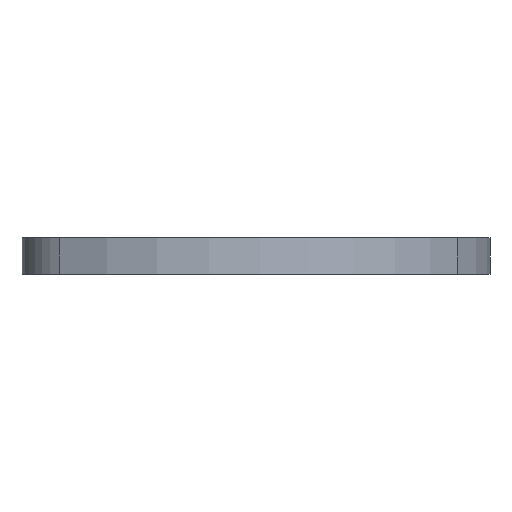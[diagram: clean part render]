
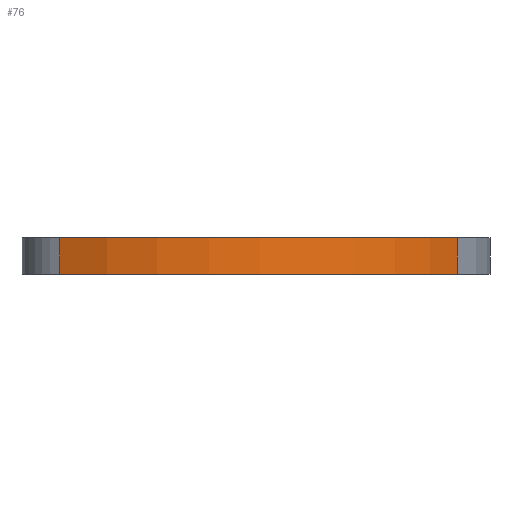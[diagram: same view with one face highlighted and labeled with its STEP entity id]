
A CAD part, left-side view. The second image highlights one B-rep face of the part: STEP entity #76.
In plain terms, the highlighted cylindrical face has radius 73 mm (diameter 146 mm), a partial arc.
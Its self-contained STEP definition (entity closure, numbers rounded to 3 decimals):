
#76 = ADVANCED_FACE ( 'NONE', ( #474 ), #668, .T. ) ;
#86 = CARTESIAN_POINT ( 'NONE',  ( -33.504, -64.857, 4.5 ) ) ;
#112 = DIRECTION ( 'NONE',  ( 0.459, 0.888, 0. ) ) ;
#225 = CARTESIAN_POINT ( 'NONE',  ( 0., 0., 4.5 ) ) ;
#294 = EDGE_LOOP ( 'NONE', ( #335, #729, #534, #577 ) ) ;
#335 = ORIENTED_EDGE ( 'NONE', *, *, #978, .F. ) ;
#365 = DIRECTION ( 'NONE',  ( 0., 0., 1. ) ) ;
#368 = DIRECTION ( 'NONE',  ( 0., 0., -1. ) ) ;
#403 = VECTOR ( 'NONE', #368, 1000. ) ;
#410 = EDGE_CURVE ( 'NONE', #699, #970, #1060, .T. ) ;
#457 = CIRCLE ( 'NONE', #650, 73. ) ;
#474 = FACE_OUTER_BOUND ( 'NONE', #294, .T. ) ;
#534 = ORIENTED_EDGE ( 'NONE', *, *, #410, .F. ) ;
#535 = CARTESIAN_POINT ( 'NONE',  ( -65.001, 33.225, 4.5 ) ) ;
#552 = CARTESIAN_POINT ( 'NONE',  ( -33.504, -64.857, 4.5 ) ) ;
#577 = ORIENTED_EDGE ( 'NONE', *, *, #1095, .T. ) ;
#630 = AXIS2_PLACEMENT_3D ( 'NONE', #1009, #919, #852 ) ;
#647 = CIRCLE ( 'NONE', #630, 73. ) ;
#650 = AXIS2_PLACEMENT_3D ( 'NONE', #670, #1026, #112 ) ;
#668 = CYLINDRICAL_SURFACE ( 'NONE', #965, 73. ) ;
#670 = CARTESIAN_POINT ( 'NONE',  ( 0., 0., -4.5 ) ) ;
#690 = CARTESIAN_POINT ( 'NONE',  ( -65.001, 33.225, -4.5 ) ) ;
#699 = VERTEX_POINT ( 'NONE', #690 ) ;
#729 = ORIENTED_EDGE ( 'NONE', *, *, #788, .F. ) ;
#788 = EDGE_CURVE ( 'NONE', #970, #999, #647, .T. ) ;
#835 = DIRECTION ( 'NONE',  ( -0.459, -0.888, 0. ) ) ;
#852 = DIRECTION ( 'NONE',  ( 0.459, 0.888, 0. ) ) ;
#871 = VECTOR ( 'NONE', #365, 1000. ) ;
#892 = LINE ( 'NONE', #552, #403 ) ;
#919 = DIRECTION ( 'NONE',  ( 0., 0., 1. ) ) ;
#965 = AXIS2_PLACEMENT_3D ( 'NONE', #225, #1011, #835 ) ;
#970 = VERTEX_POINT ( 'NONE', #535 ) ;
#978 = EDGE_CURVE ( 'NONE', #999, #1074, #892, .T. ) ;
#989 = CARTESIAN_POINT ( 'NONE',  ( -65.001, 33.225, -4.5 ) ) ;
#999 = VERTEX_POINT ( 'NONE', #86 ) ;
#1009 = CARTESIAN_POINT ( 'NONE',  ( 0., 0., 4.5 ) ) ;
#1011 = DIRECTION ( 'NONE',  ( 0., 0., -1. ) ) ;
#1026 = DIRECTION ( 'NONE',  ( 0., 0., 1. ) ) ;
#1060 = LINE ( 'NONE', #989, #871 ) ;
#1074 = VERTEX_POINT ( 'NONE', #1080 ) ;
#1080 = CARTESIAN_POINT ( 'NONE',  ( -33.504, -64.857, -4.5 ) ) ;
#1095 = EDGE_CURVE ( 'NONE', #699, #1074, #457, .T. ) ;
